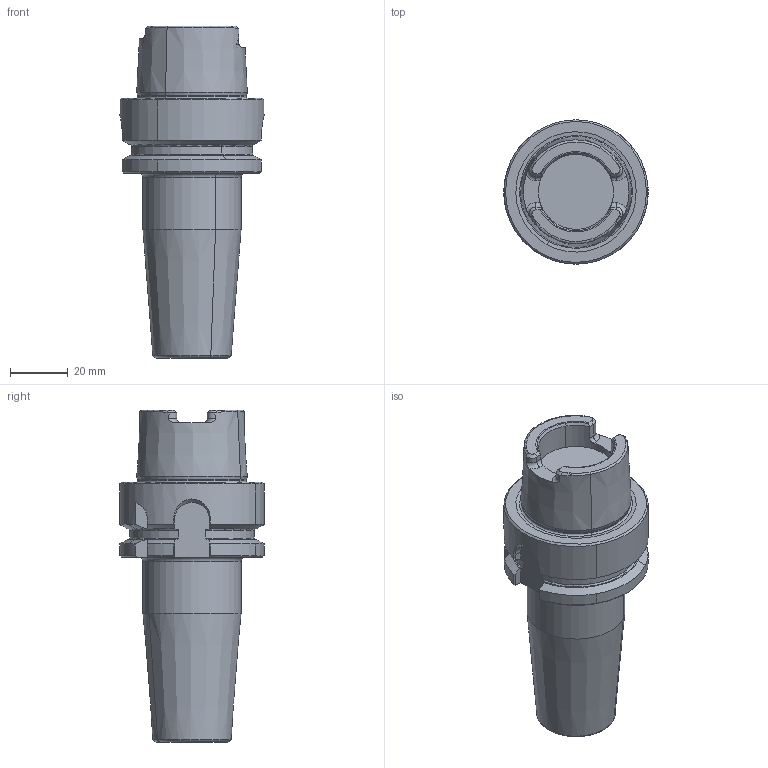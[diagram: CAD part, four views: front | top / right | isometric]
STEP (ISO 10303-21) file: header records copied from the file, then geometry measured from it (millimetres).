
FILE_DESCRIPTION(('CATIA V5 STEP'),'2;1');
FILE_NAME('I:\isr\design\admin8\users\edward_s\4590414_L.stp','2012-06-07T02:42:16+00:00',('none'),('none'),'CATIA Version 5 Release 21 SP 3 (IN-10)','CATIA V5 STEP AP214','none');
FILE_SCHEMA(('AUTOMOTIVE_DESIGN { 1 0 10303 214 1 1 1 1 }'));
Length unit declared in the file: millimetre
Products named in the file (1): 60974226_0 Holder-Tool HSK A 50 SRKIN 14X90
Bounding box: 50 x 50 x 115 mm (x, y, z)
Volume: 118146.7 mm3; surface area: 17895.2 mm2
Topology: 1 solids, 1 shells, 146 faces, 379 edges, 238 vertices
Faces by surface type: plane 51, cone 35, cylinder 32, torus 28
Entity records: 4555 total; most frequent: CARTESIAN_POINT 1401, ORIENTED_EDGE 758, DIRECTION 464, EDGE_CURVE 379, AXIS2_PLACEMENT_3D 241, VERTEX_POINT 238, CIRCLE 155, EDGE_LOOP 149
